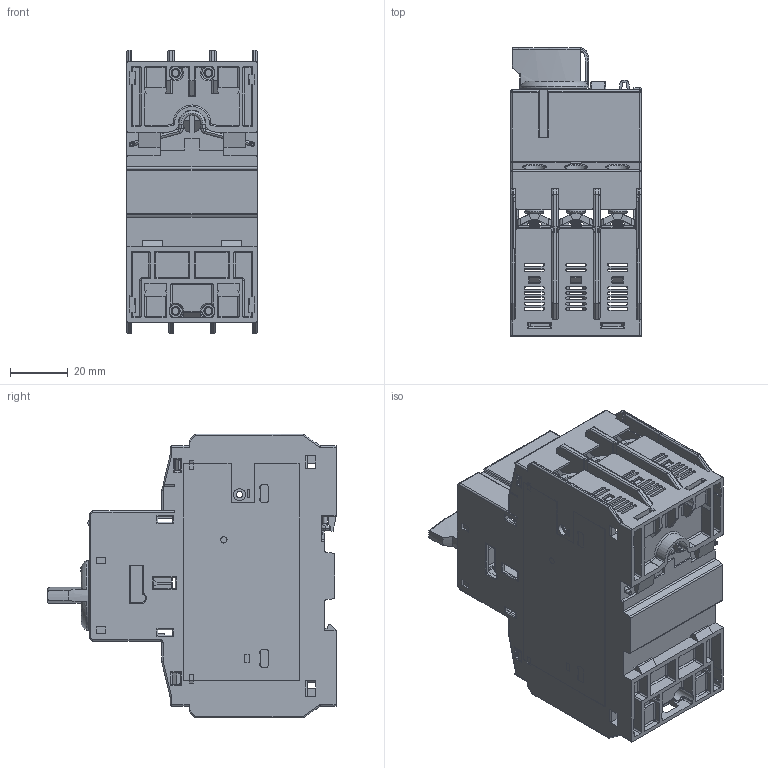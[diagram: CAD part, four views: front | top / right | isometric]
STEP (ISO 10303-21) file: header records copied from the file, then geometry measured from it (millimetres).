
FILE_DESCRIPTION((''),'2;1');
FILE_NAME('32HI','2021-03-17T',('jshwangb'),(''),'CREO PARAMETRIC BY PTC INC, 2015380','CREO PARAMETRIC BY PTC INC, 2015380','');
FILE_SCHEMA(('CONFIG_CONTROL_DESIGN'));
Products named in the file (1): 32HI
Bounding box: 45.2 x 99.6 x 98 mm (x, y, z)
Volume: 57105.8 mm3; surface area: 82851.9 mm2
Topology: 11 solids, 11 shells, 5025 faces, 14071 edges, 8962 vertices
Faces by surface type: plane 3524, cylinder 1113, bspline 167, cone 76, torus 74, sphere 68, extrusion 2, revolution 1
Entity records: 182282 total; most frequent: CARTESIAN_POINT 53855, ORIENTED_EDGE 28134, DIRECTION 24654, EDGE_CURVE 14067, VECTOR 10975, LINE 10973, VERTEX_POINT 8962, AXIS2_PLACEMENT_3D 6839
